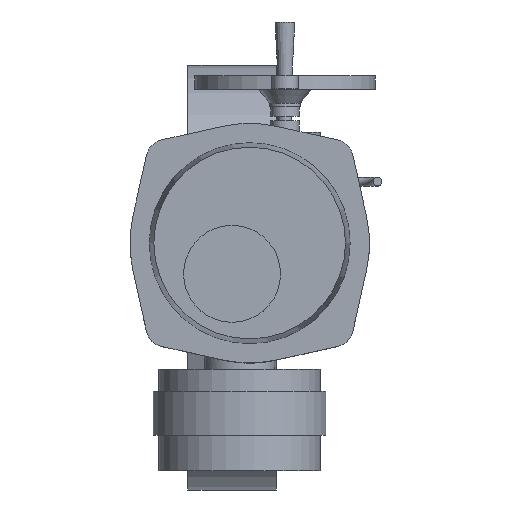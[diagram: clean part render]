
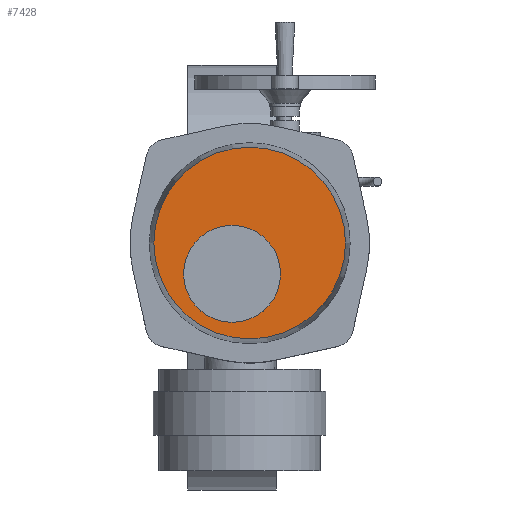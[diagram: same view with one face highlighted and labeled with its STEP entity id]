
A CAD part, top view. The second image highlights one B-rep face of the part: STEP entity #7428.
In plain terms, the highlighted planar face has unit normal (0, 0, 1).
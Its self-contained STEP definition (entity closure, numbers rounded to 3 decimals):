
#7428=ADVANCED_FACE('',(#13641,#13643),#13645,.T.);
#13641=FACE_BOUND('',#13642,.T.);
#13642=EDGE_LOOP('',(#18571));
#13643=FACE_BOUND('',#13644,.T.);
#13644=EDGE_LOOP('',(#18572));
#13645=PLANE('',#13646);
#13646=AXIS2_PLACEMENT_3D('',#13647,#13648,#13649);
#13647=CARTESIAN_POINT('',(20.,38.,704.));
#13648=DIRECTION('',(0.,0.,1.));
#13649=DIRECTION('',(-1.,0.,0.));
#18571=ORIENTED_EDGE('',*,*,#21020,.T.);
#18572=ORIENTED_EDGE('',*,*,#21027,.F.);
#21020=EDGE_CURVE('',#24957,#24957,#24958,.T.);
#21027=EDGE_CURVE('',#24967,#24967,#24968,.T.);
#24957=VERTEX_POINT('',#35924);
#24958=CIRCLE('',#35925,108.707);
#24967=VERTEX_POINT('',#35951);
#24968=CIRCLE('',#35952,55.);
#35924=CARTESIAN_POINT('',(-88.707,38.,704.));
#35925=AXIS2_PLACEMENT_3D('',#35926,#35927,#35928);
#35926=CARTESIAN_POINT('',(20.,38.,704.));
#35927=DIRECTION('',(0.,0.,1.));
#35928=DIRECTION('',(-1.,0.,0.));
#35951=CARTESIAN_POINT('',(-55.,3.,704.));
#35952=AXIS2_PLACEMENT_3D('',#35953,#35954,#35955);
#35953=CARTESIAN_POINT('',(0.,3.,704.));
#35954=DIRECTION('',(0.,0.,1.));
#35955=DIRECTION('',(-1.,0.,0.));
